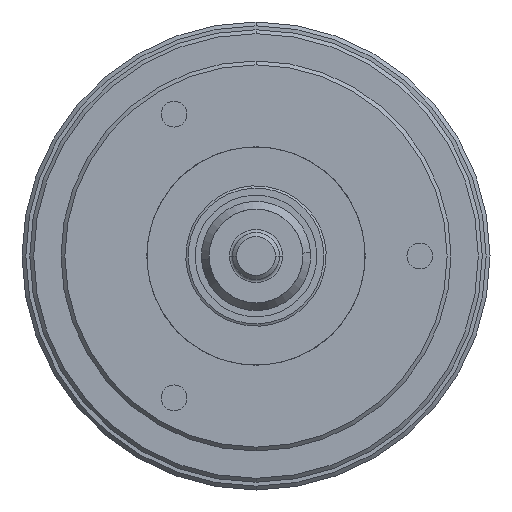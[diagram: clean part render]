
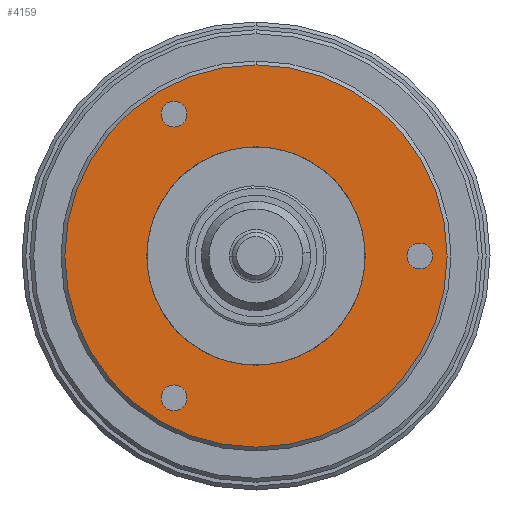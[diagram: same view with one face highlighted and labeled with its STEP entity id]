
A CAD part, front view. The second image highlights one B-rep face of the part: STEP entity #4159.
In plain terms, the highlighted planar face has unit normal (0, -1, 0).
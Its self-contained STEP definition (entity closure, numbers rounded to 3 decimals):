
#5 = AXIS2_PLACEMENT_3D ( 'NONE', #3455, #4675, #2520 ) ;
#31 = AXIS2_PLACEMENT_3D ( 'NONE', #3666, #4613, #1213 ) ;
#84 = ORIENTED_EDGE ( 'NONE', *, *, #2276, .F. ) ;
#89 = CIRCLE ( 'NONE', #5, 14. ) ;
#141 = DIRECTION ( 'NONE',  ( 0., 0., -1. ) ) ;
#157 = VERTEX_POINT ( 'NONE', #3000 ) ;
#193 = DIRECTION ( 'NONE',  ( 0., 0., -1. ) ) ;
#209 = CARTESIAN_POINT ( 'NONE',  ( 0., 0., 0. ) ) ;
#455 = FACE_OUTER_BOUND ( 'NONE', #2818, .T. ) ;
#475 = CARTESIAN_POINT ( 'NONE',  ( 0., 0., 24.5 ) ) ;
#568 = DIRECTION ( 'NONE',  ( 0., -1., 0. ) ) ;
#612 = EDGE_CURVE ( 'NONE', #1986, #157, #2206, .T. ) ;
#631 = VERTEX_POINT ( 'NONE', #2469 ) ;
#646 = CIRCLE ( 'NONE', #2869, 1.65 ) ;
#647 = DIRECTION ( 'NONE',  ( 0., 0., -1. ) ) ;
#718 = ORIENTED_EDGE ( 'NONE', *, *, #2539, .F. ) ;
#752 = CARTESIAN_POINT ( 'NONE',  ( -10.5, 0., -16.537 ) ) ;
#821 = VERTEX_POINT ( 'NONE', #5105 ) ;
#827 = CARTESIAN_POINT ( 'NONE',  ( 21., 0., 0. ) ) ;
#965 = EDGE_CURVE ( 'NONE', #3276, #4943, #3433, .T. ) ;
#1055 = PLANE ( 'NONE',  #1170 ) ;
#1153 = ORIENTED_EDGE ( 'NONE', *, *, #2443, .F. ) ;
#1159 = EDGE_CURVE ( 'NONE', #3017, #631, #89, .T. ) ;
#1170 = AXIS2_PLACEMENT_3D ( 'NONE', #209, #3128, #647 ) ;
#1206 = VERTEX_POINT ( 'NONE', #3308 ) ;
#1213 = DIRECTION ( 'NONE',  ( 0., 0., -1. ) ) ;
#1238 = DIRECTION ( 'NONE',  ( 0., 0., -1. ) ) ;
#1521 = VERTEX_POINT ( 'NONE', #752 ) ;
#1528 = CARTESIAN_POINT ( 'NONE',  ( -10.5, 0., 18.187 ) ) ;
#1558 = FACE_BOUND ( 'NONE', #2211, .T. ) ;
#1603 = EDGE_LOOP ( 'NONE', ( #1660, #718 ) ) ;
#1637 = DIRECTION ( 'NONE',  ( 0., -1., 0. ) ) ;
#1660 = ORIENTED_EDGE ( 'NONE', *, *, #1159, .F. ) ;
#1661 = ORIENTED_EDGE ( 'NONE', *, *, #1808, .T. ) ;
#1679 = FACE_BOUND ( 'NONE', #1774, .T. ) ;
#1766 = CIRCLE ( 'NONE', #4882, 1.65 ) ;
#1774 = EDGE_LOOP ( 'NONE', ( #2513, #3960 ) ) ;
#1779 = AXIS2_PLACEMENT_3D ( 'NONE', #827, #3709, #1238 ) ;
#1808 = EDGE_CURVE ( 'NONE', #4943, #3276, #4346, .T. ) ;
#1898 = DIRECTION ( 'NONE',  ( 0., -1., 0. ) ) ;
#1927 = AXIS2_PLACEMENT_3D ( 'NONE', #5151, #2693, #193 ) ;
#1942 = DIRECTION ( 'NONE',  ( 0., 0., -1. ) ) ;
#1969 = CARTESIAN_POINT ( 'NONE',  ( -10.5, 0., -18.187 ) ) ;
#1986 = VERTEX_POINT ( 'NONE', #2563 ) ;
#2017 = AXIS2_PLACEMENT_3D ( 'NONE', #1528, #4406, #1942 ) ;
#2164 = AXIS2_PLACEMENT_3D ( 'NONE', #4992, #1637, #3863 ) ;
#2202 = DIRECTION ( 'NONE',  ( 0., -1., 0. ) ) ;
#2206 = CIRCLE ( 'NONE', #5144, 1.65 ) ;
#2211 = EDGE_LOOP ( 'NONE', ( #1153, #5089 ) ) ;
#2276 = EDGE_CURVE ( 'NONE', #1206, #821, #1766, .T. ) ;
#2323 = AXIS2_PLACEMENT_3D ( 'NONE', #1969, #4846, #2398 ) ;
#2355 = EDGE_CURVE ( 'NONE', #157, #1986, #4049, .T. ) ;
#2398 = DIRECTION ( 'NONE',  ( 0., 0., -1. ) ) ;
#2408 = CARTESIAN_POINT ( 'NONE',  ( 0., 0., -24.5 ) ) ;
#2443 = EDGE_CURVE ( 'NONE', #4565, #1521, #646, .T. ) ;
#2469 = CARTESIAN_POINT ( 'NONE',  ( 0., 0., 14. ) ) ;
#2513 = ORIENTED_EDGE ( 'NONE', *, *, #612, .F. ) ;
#2520 = DIRECTION ( 'NONE',  ( 0., 0., -1. ) ) ;
#2539 = EDGE_CURVE ( 'NONE', #631, #3017, #3877, .T. ) ;
#2563 = CARTESIAN_POINT ( 'NONE',  ( -10.5, 0., 16.537 ) ) ;
#2693 = DIRECTION ( 'NONE',  ( 0., -1., 0. ) ) ;
#2818 = EDGE_LOOP ( 'NONE', ( #5358, #1661 ) ) ;
#2869 = AXIS2_PLACEMENT_3D ( 'NONE', #4648, #2202, #5085 ) ;
#2985 = EDGE_CURVE ( 'NONE', #1521, #4565, #4161, .T. ) ;
#3000 = CARTESIAN_POINT ( 'NONE',  ( -10.5, 0., 19.837 ) ) ;
#3017 = VERTEX_POINT ( 'NONE', #4461 ) ;
#3128 = DIRECTION ( 'NONE',  ( 0., -1., 0. ) ) ;
#3276 = VERTEX_POINT ( 'NONE', #475 ) ;
#3308 = CARTESIAN_POINT ( 'NONE',  ( 21., 0., 1.65 ) ) ;
#3433 = CIRCLE ( 'NONE', #2164, 24.5 ) ;
#3455 = CARTESIAN_POINT ( 'NONE',  ( 0., 0., 0. ) ) ;
#3468 = CARTESIAN_POINT ( 'NONE',  ( -10.5, 0., 18.187 ) ) ;
#3616 = EDGE_LOOP ( 'NONE', ( #5255, #84 ) ) ;
#3628 = FACE_BOUND ( 'NONE', #1603, .T. ) ;
#3666 = CARTESIAN_POINT ( 'NONE',  ( 0., 0., 0. ) ) ;
#3709 = DIRECTION ( 'NONE',  ( 0., -1., 0. ) ) ;
#3863 = DIRECTION ( 'NONE',  ( 0., 0., -1. ) ) ;
#3877 = CIRCLE ( 'NONE', #1927, 14. ) ;
#3960 = ORIENTED_EDGE ( 'NONE', *, *, #2355, .F. ) ;
#3971 = CIRCLE ( 'NONE', #1779, 1.65 ) ;
#4049 = CIRCLE ( 'NONE', #2017, 1.65 ) ;
#4159 = ADVANCED_FACE ( 'NONE', ( #455, #1558, #1679, #4721, #3628 ), #1055, .T. ) ;
#4161 = CIRCLE ( 'NONE', #2323, 1.65 ) ;
#4346 = CIRCLE ( 'NONE', #31, 24.5 ) ;
#4354 = CARTESIAN_POINT ( 'NONE',  ( 21., 0., 0. ) ) ;
#4356 = EDGE_CURVE ( 'NONE', #821, #1206, #3971, .T. ) ;
#4406 = DIRECTION ( 'NONE',  ( 0., -1., 0. ) ) ;
#4461 = CARTESIAN_POINT ( 'NONE',  ( 0., 0., -14. ) ) ;
#4565 = VERTEX_POINT ( 'NONE', #5058 ) ;
#4613 = DIRECTION ( 'NONE',  ( 0., -1., 0. ) ) ;
#4648 = CARTESIAN_POINT ( 'NONE',  ( -10.5, 0., -18.187 ) ) ;
#4675 = DIRECTION ( 'NONE',  ( 0., -1., 0. ) ) ;
#4721 = FACE_BOUND ( 'NONE', #3616, .T. ) ;
#4775 = DIRECTION ( 'NONE',  ( 0., 0., -1. ) ) ;
#4846 = DIRECTION ( 'NONE',  ( 0., -1., 0. ) ) ;
#4882 = AXIS2_PLACEMENT_3D ( 'NONE', #4354, #1898, #4775 ) ;
#4943 = VERTEX_POINT ( 'NONE', #2408 ) ;
#4992 = CARTESIAN_POINT ( 'NONE',  ( 0., 0., 0. ) ) ;
#5058 = CARTESIAN_POINT ( 'NONE',  ( -10.5, 0., -19.837 ) ) ;
#5085 = DIRECTION ( 'NONE',  ( 0., 0., -1. ) ) ;
#5089 = ORIENTED_EDGE ( 'NONE', *, *, #2985, .F. ) ;
#5105 = CARTESIAN_POINT ( 'NONE',  ( 21., 0., -1.65 ) ) ;
#5144 = AXIS2_PLACEMENT_3D ( 'NONE', #3468, #568, #141 ) ;
#5151 = CARTESIAN_POINT ( 'NONE',  ( 0., 0., 0. ) ) ;
#5255 = ORIENTED_EDGE ( 'NONE', *, *, #4356, .F. ) ;
#5358 = ORIENTED_EDGE ( 'NONE', *, *, #965, .T. ) ;
